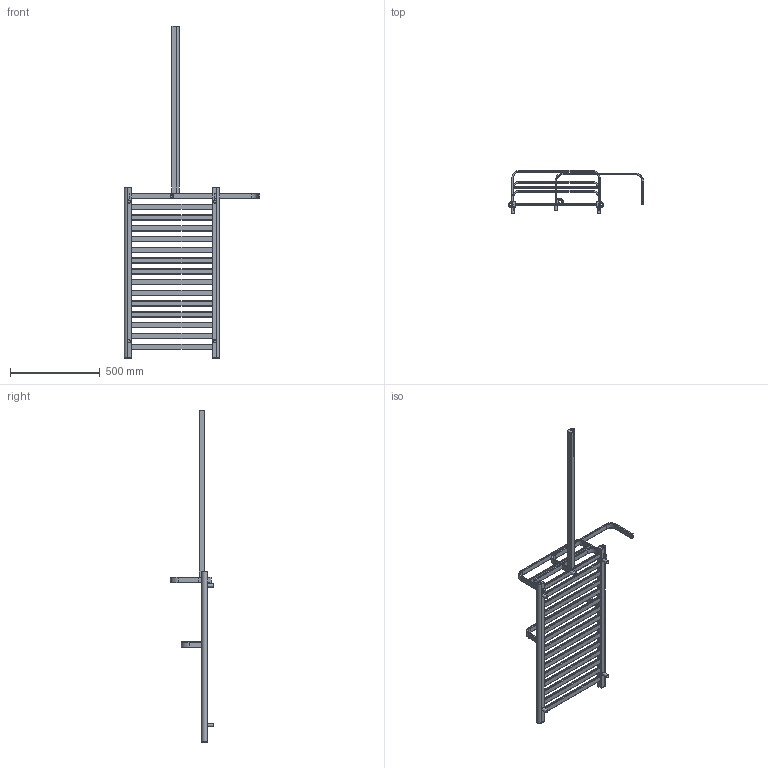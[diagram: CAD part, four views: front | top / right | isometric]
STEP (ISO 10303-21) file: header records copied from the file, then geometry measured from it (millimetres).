
FILE_DESCRIPTION( ( 'Unknown' ), '1' );
FILE_NAME( 'D:/RYSUNKI/RYSUNKI SOLID/SEJWAL/NOWE/2021/JAVA/JAVA.stp', 'Unknown', ( 'Unknown' ), ( 'Unknown' ), 'XStep 1.0', 'Unknown', ' ' );
FILE_SCHEMA( ( 'automotive_design' ) );
Length unit declared in the file: millimetre
Products named in the file (9): Assem1; Assem2; Profil-U; Dekiel_G1_2; 10x30x470; Profil_10x30x75; Profil_10x30x165; 10x30x474; MOCOWANIE
Bounding box: 754 x 240 x 1851 mm (x, y, z)
Volume: 3672343.2 mm3; surface area: 1931590.7 mm2
Topology: 38 solids, 38 shells, 477 faces, 1123 edges, 729 vertices
Faces by surface type: plane 248, cylinder 183, torus 46
Full cylindrical faces by diameter (mm): 15 x5, 18 x5, 18.631 x7, 20 x7
Entity records: 3934 total; most frequent: DIRECTION 716, CARTESIAN_POINT 629, ORIENTED_EDGE 580, EDGE_CURVE 290, AXIS2_PLACEMENT_3D 273, VERTEX_POINT 186, LINE 170, VECTOR 170
